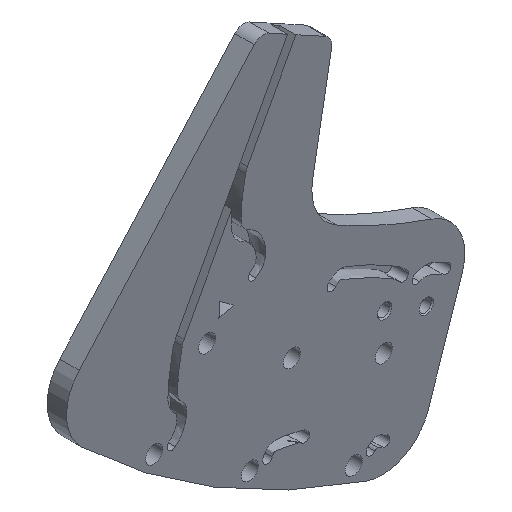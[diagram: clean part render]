
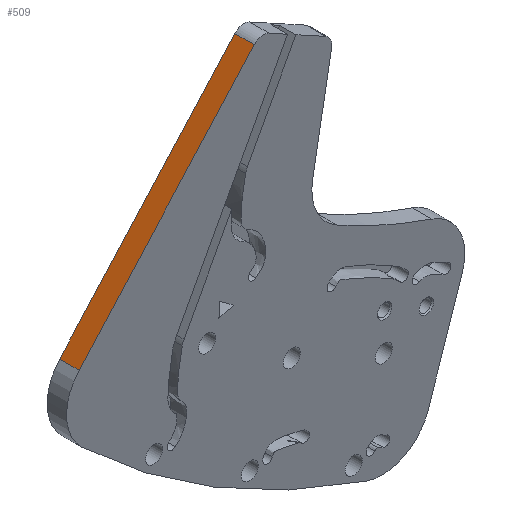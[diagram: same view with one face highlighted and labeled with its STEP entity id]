
A CAD part, isometric view. The second image highlights one B-rep face of the part: STEP entity #509.
In plain terms, the highlighted planar face has unit normal (-0.743, 0, 0.67).
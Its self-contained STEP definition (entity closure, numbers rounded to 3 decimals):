
#119=PLANE('',#5290);
#509=ADVANCED_FACE('',(#854),#119,.F.);
#854=FACE_OUTER_BOUND('',#1157,.T.);
#1157=EDGE_LOOP('',(#2208,#2209,#2210,#2211));
#2208=ORIENTED_EDGE('',*,*,#4181,.T.);
#2209=ORIENTED_EDGE('',*,*,#4182,.T.);
#2210=ORIENTED_EDGE('',*,*,#4060,.F.);
#2211=ORIENTED_EDGE('',*,*,#4183,.T.);
#3554=VERTEX_POINT('',#7306);
#3555=VERTEX_POINT('',#7308);
#3664=VERTEX_POINT('',#8257);
#3665=VERTEX_POINT('',#8258);
#4060=EDGE_CURVE('',#3554,#3555,#4676,.T.);
#4181=EDGE_CURVE('',#3664,#3665,#4700,.T.);
#4182=EDGE_CURVE('',#3665,#3555,#4701,.T.);
#4183=EDGE_CURVE('',#3554,#3664,#4702,.T.);
#4676=LINE('',#7307,#4939);
#4700=LINE('',#8256,#4968);
#4701=LINE('',#8259,#4969);
#4702=LINE('',#8260,#4970);
#4939=VECTOR('',#5584,1.);
#4968=VECTOR('',#5671,1.);
#4969=VECTOR('',#5672,1.);
#4970=VECTOR('',#5673,1.);
#5290=AXIS2_PLACEMENT_3D('',#8261,#5674,#5675);
#5584=DIRECTION('',(0.67,0.,0.743));
#5671=DIRECTION('',(0.67,0.,0.743));
#5672=DIRECTION('',(0.,1.,0.));
#5673=DIRECTION('',(0.,-1.,0.));
#5674=DIRECTION('',(0.743,0.,-0.67));
#5675=DIRECTION('',(0.67,0.,0.743));
#7306=CARTESIAN_POINT('',(78.905,-766.,-331.881));
#7307=CARTESIAN_POINT('',(66.24,-766.,-345.93));
#7308=CARTESIAN_POINT('',(150.949,-766.,-251.962));
#8256=CARTESIAN_POINT('',(66.24,-774.,-345.93));
#8257=CARTESIAN_POINT('',(78.905,-774.,-331.881));
#8258=CARTESIAN_POINT('',(150.949,-774.,-251.962));
#8259=CARTESIAN_POINT('',(150.949,-766.,-251.962));
#8260=CARTESIAN_POINT('',(78.905,-766.,-331.881));
#8261=CARTESIAN_POINT('',(66.24,-766.,-345.93));
